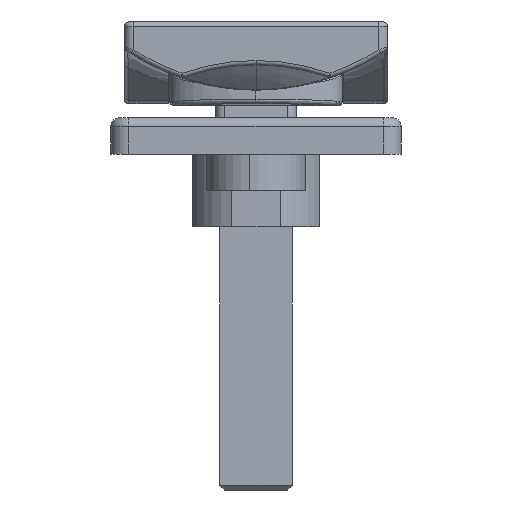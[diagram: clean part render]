
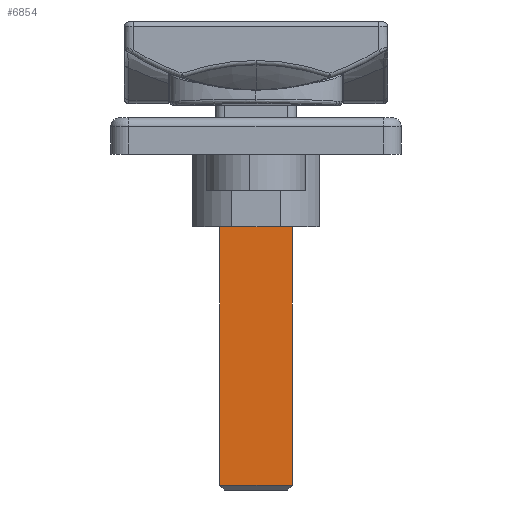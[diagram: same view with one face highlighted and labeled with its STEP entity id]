
A CAD part, front view. The second image highlights one B-rep face of the part: STEP entity #6854.
In plain terms, the highlighted planar face has unit normal (0, -1, 0) as drawn and (1, 0, 0) by its records, which use the part's own axes.
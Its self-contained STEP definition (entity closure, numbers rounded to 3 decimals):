
#65 = CARTESIAN_POINT ( 'NONE',  ( 4., 0., 1.75 ) ) ;
#930 = CARTESIAN_POINT ( 'NONE',  ( 4., 4., 0.5 ) ) ;
#969 = CARTESIAN_POINT ( 'NONE',  ( 4., 0., 4. ) ) ;
#1455 = CARTESIAN_POINT ( 'NONE',  ( 4., -4., 36.5 ) ) ;
#1459 = AXIS2_PLACEMENT_3D ( 'NONE', #4956, #8946, #5580 ) ;
#1527 = VERTEX_POINT ( 'NONE', #6696 ) ;
#1676 = CIRCLE ( 'NONE', #9551, 2.25 ) ;
#1724 = VECTOR ( 'NONE', #7671, 1000. ) ;
#1841 = LINE ( 'NONE', #9141, #2887 ) ;
#2050 = LINE ( 'NONE', #4469, #1724 ) ;
#2296 = VECTOR ( 'NONE', #7128, 1000. ) ;
#2401 = LINE ( 'NONE', #2501, #2296 ) ;
#2492 = EDGE_CURVE ( 'NONE', #6927, #1527, #1676, .T. ) ;
#2501 = CARTESIAN_POINT ( 'NONE',  ( 4., -4., 36.5 ) ) ;
#2627 = DIRECTION ( 'NONE',  ( 0., 0., -1. ) ) ;
#2701 = EDGE_LOOP ( 'NONE', ( #3401, #10114, #5398, #10276 ) ) ;
#2887 = VECTOR ( 'NONE', #2627, 1000. ) ;
#3153 = CARTESIAN_POINT ( 'NONE',  ( 4., -4., 0.5 ) ) ;
#3193 = EDGE_CURVE ( 'NONE', #8290, #5025, #2050, .T. ) ;
#3274 = DIRECTION ( 'NONE',  ( 0., 0., -1. ) ) ;
#3401 = ORIENTED_EDGE ( 'NONE', *, *, #4778, .T. ) ;
#3680 = VECTOR ( 'NONE', #8494, 1000. ) ;
#3749 = FACE_OUTER_BOUND ( 'NONE', #2701, .T. ) ;
#4469 = CARTESIAN_POINT ( 'NONE',  ( 4., 4., 0.5 ) ) ;
#4712 = ORIENTED_EDGE ( 'NONE', *, *, #2492, .F. ) ;
#4764 = ORIENTED_EDGE ( 'NONE', *, *, #6900, .F. ) ;
#4778 = EDGE_CURVE ( 'NONE', #7708, #8290, #1841, .T. ) ;
#4839 = VERTEX_POINT ( 'NONE', #9712 ) ;
#4847 = PLANE ( 'NONE',  #1459 ) ;
#4956 = CARTESIAN_POINT ( 'NONE',  ( 4., 4., 37. ) ) ;
#5025 = VERTEX_POINT ( 'NONE', #930 ) ;
#5272 = EDGE_LOOP ( 'NONE', ( #4712, #4764 ) ) ;
#5398 = ORIENTED_EDGE ( 'NONE', *, *, #10369, .F. ) ;
#5580 = DIRECTION ( 'NONE',  ( 0., -1., 0. ) ) ;
#5916 = LINE ( 'NONE', #7600, #3680 ) ;
#6422 = DIRECTION ( 'NONE',  ( 1., 0., 0. ) ) ;
#6672 = AXIS2_PLACEMENT_3D ( 'NONE', #7267, #7210, #10337 ) ;
#6696 = CARTESIAN_POINT ( 'NONE',  ( 4., 0., 6.25 ) ) ;
#6854 = ADVANCED_FACE ( 'NONE', ( #7742, #3749 ), #4847, .F. ) ;
#6900 = EDGE_CURVE ( 'NONE', #1527, #6927, #10005, .T. ) ;
#6927 = VERTEX_POINT ( 'NONE', #65 ) ;
#7128 = DIRECTION ( 'NONE',  ( 0., -1., 0. ) ) ;
#7210 = DIRECTION ( 'NONE',  ( 1., 0., 0. ) ) ;
#7267 = CARTESIAN_POINT ( 'NONE',  ( 4., 0., 4. ) ) ;
#7600 = CARTESIAN_POINT ( 'NONE',  ( 4., 4., 37. ) ) ;
#7671 = DIRECTION ( 'NONE',  ( 0., 1., 0. ) ) ;
#7708 = VERTEX_POINT ( 'NONE', #1455 ) ;
#7742 = FACE_BOUND ( 'NONE', #5272, .T. ) ;
#7747 = EDGE_CURVE ( 'NONE', #4839, #7708, #2401, .T. ) ;
#8290 = VERTEX_POINT ( 'NONE', #3153 ) ;
#8494 = DIRECTION ( 'NONE',  ( 0., 0., -1. ) ) ;
#8946 = DIRECTION ( 'NONE',  ( -1., 0., 0. ) ) ;
#9141 = CARTESIAN_POINT ( 'NONE',  ( 4., -4., 37. ) ) ;
#9551 = AXIS2_PLACEMENT_3D ( 'NONE', #969, #6422, #3274 ) ;
#9712 = CARTESIAN_POINT ( 'NONE',  ( 4., 4., 36.5 ) ) ;
#10005 = CIRCLE ( 'NONE', #6672, 2.25 ) ;
#10114 = ORIENTED_EDGE ( 'NONE', *, *, #3193, .T. ) ;
#10276 = ORIENTED_EDGE ( 'NONE', *, *, #7747, .T. ) ;
#10337 = DIRECTION ( 'NONE',  ( 0., 0., -1. ) ) ;
#10369 = EDGE_CURVE ( 'NONE', #4839, #5025, #5916, .T. ) ;
